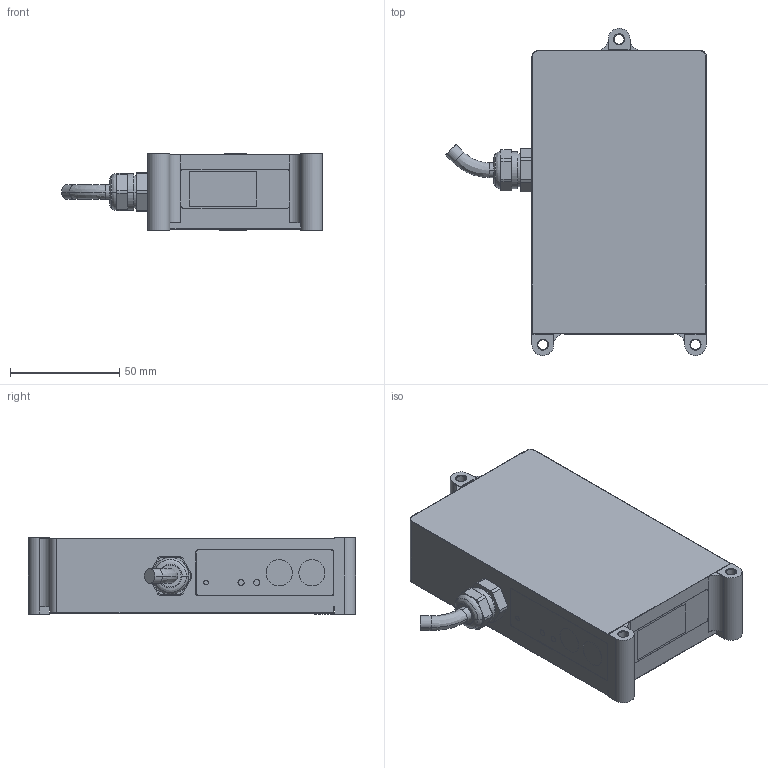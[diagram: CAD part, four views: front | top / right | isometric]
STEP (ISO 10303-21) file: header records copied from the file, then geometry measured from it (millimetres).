
FILE_DESCRIPTION (( 'STEP AP214' ), '1' );
FILE_NAME ('ILD1750_Groesse_M_.STEP', '2020-03-10T12:46:12', ( '' ), ( '' ), 'SwSTEP 2.0', 'SolidWorks 2018', '' );
FILE_SCHEMA (( 'AUTOMOTIVE_DESIGN' ));
Length unit declared in the file: millimetre
Products named in the file (2): ILD1750_Groesse_M_
Bounding box: 119.58 x 150 x 35 mm (x, y, z)
Volume: 130401.3 mm3; surface area: 75413.7 mm2
Topology: 1 solids, 26 shells, 965 faces, 2527 edges, 1630 vertices
Faces by surface type: cylinder 559, plane 269, cone 125, bspline 12
Entity records: 41534 total; most frequent: CARTESIAN_POINT 7673, ORIENTED_EDGE 4962, DIRECTION 4783, EDGE_CURVE 2481, AXIS2_PLACEMENT_3D 1804, VERTEX_POINT 1630, LINE 1175, VECTOR 1175
